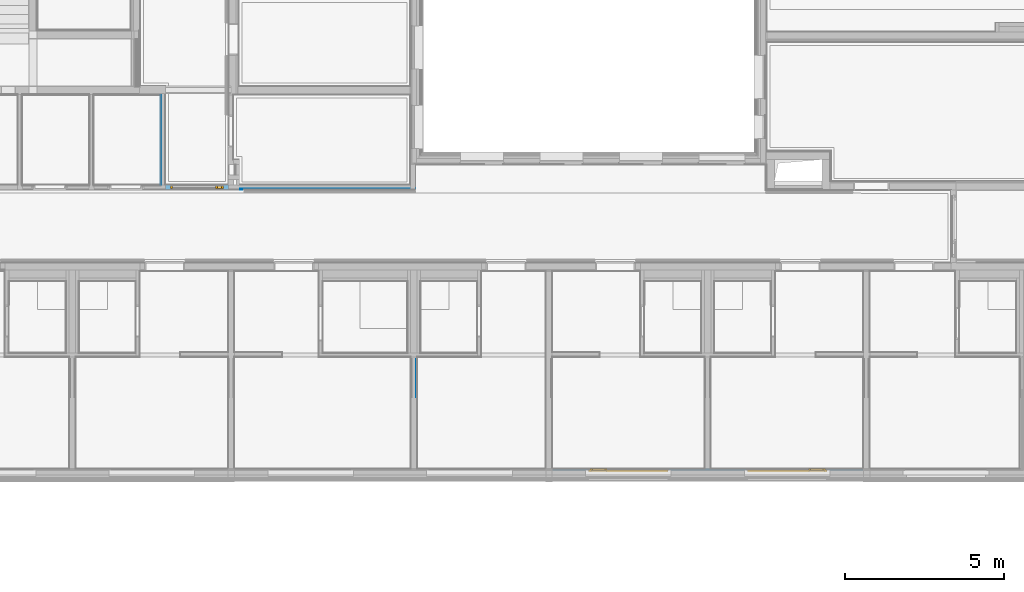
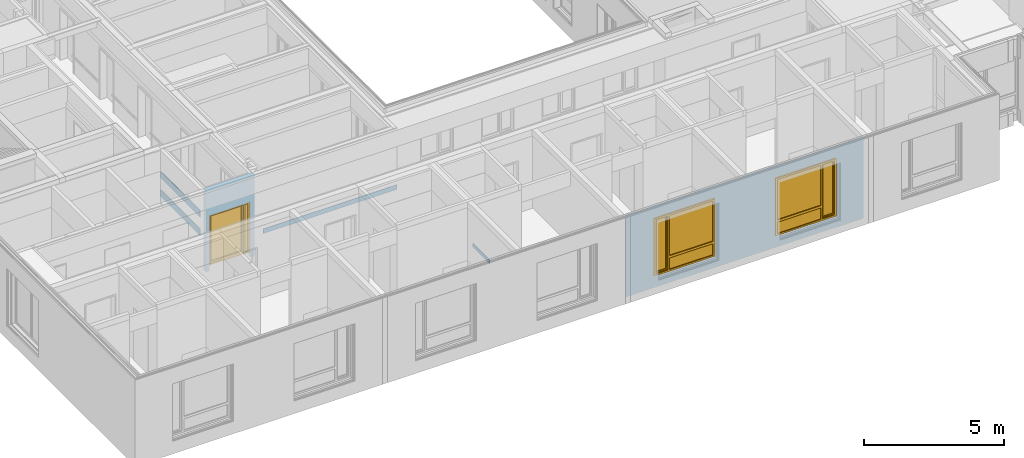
# One storey, part 62 of 222: 4 walls, 2 windows, 1 door, 3 openings, plus 2 elements that do not belong to this part.
"""IFC4 building model written with IfcOpenShell, lengths in metres."""

from ifc_helpers import new_model, entity, si_unit, converted_unit, derived_unit, frame, frame_2d, origin, origin_with_axes, place, context, subcontext, project, spatial, polyline, rectangle, outline, extrude, closed_shell, open_shell, faceted_brep, surface_model, source, transform, mapped, material, element, fill, save


model = new_model("IFC4")

# Units and contexts
model_context = context("Model", 3, precision=1e-05, world=origin())
body_context = subcontext(model_context, "Body", "Model", "MODEL_VIEW")
ifc_project = project(units=[si_unit("LENGTHUNIT", "METRE"), si_unit("AREAUNIT", "SQUARE_METRE"), si_unit("VOLUMEUNIT", "CUBIC_METRE"), si_unit("MASSUNIT", "GRAM", prefix="KILO"), converted_unit("PLANEANGLEUNIT", "DEGREE", entity("IfcPlaneAngleMeasure", 0.0174532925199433), si_unit("PLANEANGLEUNIT", "RADIAN"), dimensions=[0, 0, 0, 0, 0, 0, 0]), derived_unit("THERMALTRANSMITTANCEUNIT", [(si_unit("POWERUNIT", "WATT"), 1), (si_unit("THERMODYNAMICTEMPERATUREUNIT", "KELVIN"), -1), (si_unit("LENGTHUNIT", "METRE"), -2)]), derived_unit("VOLUMETRICFLOWRATEUNIT", [(si_unit("LENGTHUNIT", "METRE"), 3), (converted_unit("TIMEUNIT", "hour", entity("IfcTimeMeasure", 3600.0), si_unit("TIMEUNIT", "SECOND"), dimensions=[0, 0, 1, 0, 0, 0, 0]), -1), (si_unit("LENGTHUNIT", "METRE"), -1)])], contexts=[model_context])

# Site, building, storey
site_placement = place(None, origin())
site = spatial("IfcSite", under=ifc_project, at=site_placement, Name="Psychiatrie Neubau Wunstorf", CompositionType="ELEMENT")
building_placement = place(site_placement, origin())
building = spatial("IfcBuilding", under=site, at=building_placement, Name="Neubau H2 Stationsgebäude", CompositionType="ELEMENT")
storey_placement = place(building_placement, frame((0.0, 0.0, 3.6)))
storey = spatial("IfcBuildingStorey", under=building, at=storey_placement, Name="H2 Ebene +1", CompositionType="ELEMENT", Elevation=3.6)

# Wall, openings, windows
ifc_material_1 = material(Name="WA-LB")
wall_1_placement = place(storey_placement, frame((29.9, -2.16399999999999, 0.0), z_axis=(0.0, 0.0, 1.0), x_axis=(-1.0, 1.39208372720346e-16, 0.0)))
wall_1 = element("IfcWall", 1, at=wall_1_placement, inside=storey, material=ifc_material_1, context=body_context, shape_type="SweptSolid", body=[
    extrude(rectangle(XDim=9.8, YDim=0.036, at=frame_2d((4.9, 0.018), x_axis=(1.0, 0.0))), origin_with_axes(), (0.0, 0.0, 1.0), 3.55),
])
opening_1_placement = place(wall_1_placement, frame((6.15, 0.0, 0.55), z_axis=(0.0, 1.0, 0.0), x_axis=(0.0, 0.0, 1.0)))
opening_1 = element("IfcOpeningElement", 2, at=opening_1_placement, cuts=wall_1, Name="Fensteröffnung", ObjectType="Opening", context=body_context, shape_type="SweptSolid", body=[
    extrude(outline(polyline([(2.5, 2.5), (2.5, 0.0), (0.0, 0.0), (0.0, 2.5), (2.5, 2.5)])), origin_with_axes(), (0.0, 0.0, 1.0), 0.036),
])
opening_2_placement = place(wall_1_placement, frame((1.15, 0.0, 0.55), z_axis=(0.0, 1.0, 0.0), x_axis=(0.0, 0.0, 1.0)))
opening_2 = element("IfcOpeningElement", 3, at=opening_2_placement, cuts=wall_1, Name="Fensteröffnung", ObjectType="Opening", context=body_context, shape_type="SweptSolid", body=[
    extrude(outline(polyline([(2.5, 2.5), (2.5, 0.0), (0.0, 0.0), (0.0, 2.5), (2.5, 2.5)])), origin_with_axes(), (0.0, 0.0, 1.0), 0.036),
])
shared_shape_1 = source(origin_with_axes(), body_context, "Body", "SurfaceModel", [
    surface_model("IfcShellBasedSurfaceModel", [(2.5, 0.0, 2.5), (2.5, 0.0, 0.0), (2.43, 0.0, 0.0), (2.43, 0.0, 2.5), (2.5, 0.0699999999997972, 0.0), (2.5, 0.0699999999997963, 2.5), (2.43, 0.0699999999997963, 2.5), (2.43, 0.0699999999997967, 0.0)], [closed_shell([[[0, 1, 2, 3]], [[4, 5, 6, 7]], [[1, 0, 5, 4]], [[2, 1, 4, 7]], [[3, 2, 7, 6]], [[0, 3, 6, 5]]], orient=[[False], [False], [False], [False], [False], [False]])]),
    surface_model("IfcShellBasedSurfaceModel", [(0.07, 0.0, 2.5), (0.07, 0.0, 0.0), (0.0, 0.0, 0.0), (0.0, 0.0, 2.5), (0.07, 0.0699999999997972, 0.0), (0.07, 0.0699999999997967, 2.5), (0.0, 0.0699999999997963, 2.5), (0.0, 0.0699999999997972, 0.0)], [closed_shell([[[0, 1, 2, 3]], [[4, 5, 6, 7]], [[1, 0, 5, 4]], [[2, 1, 4, 7]], [[3, 2, 7, 6]], [[0, 3, 6, 5]]], orient=[[False], [False], [False], [False], [False], [False]])]),
    surface_model("IfcShellBasedSurfaceModel", [(2.43, 0.0, 0.07), (2.43, 0.0, 0.0), (0.07, 0.0, 0.0), (0.07, 0.0, 0.07), (2.43, 0.0699999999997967, 0.0), (2.43, 0.0699999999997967, 0.07), (0.07, 0.0699999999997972, 0.07), (0.07, 0.0699999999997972, 0.0)], [closed_shell([[[0, 1, 2, 3]], [[4, 5, 6, 7]], [[1, 0, 5, 4]], [[2, 1, 4, 7]], [[3, 2, 7, 6]], [[0, 3, 6, 5]]], orient=[[False], [False], [False], [False], [False], [False]])]),
    surface_model("IfcShellBasedSurfaceModel", [(2.43, 0.0, 2.5), (2.43, 0.0, 2.43), (0.07, 0.0, 2.43), (0.07, 0.0, 2.5), (2.43, 0.0699999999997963, 2.43), (2.43, 0.0699999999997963, 2.5), (0.07, 0.0699999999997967, 2.5), (0.07, 0.0699999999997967, 2.43)], [closed_shell([[[0, 1, 2, 3]], [[4, 5, 6, 7]], [[1, 0, 5, 4]], [[2, 1, 4, 7]], [[3, 2, 7, 6]], [[0, 3, 6, 5]]], orient=[[False], [False], [False], [False], [False], [False]])]),
    surface_model("IfcShellBasedSurfaceModel", [(1.934285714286, 0.0, 2.43), (1.934285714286, 0.0, 0.07), (1.864285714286, 0.0, 0.07), (1.864285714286, 0.0, 2.43), (1.934285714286, 0.0699999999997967, 0.07), (1.934285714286, 0.0699999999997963, 2.43), (1.864285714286, 0.0699999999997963, 2.43), (1.864285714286, 0.0699999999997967, 0.07)], [closed_shell([[[0, 1, 2, 3]], [[4, 5, 6, 7]], [[1, 0, 5, 4]], [[2, 1, 4, 7]], [[3, 2, 7, 6]], [[0, 3, 6, 5]]], orient=[[False], [False], [False], [False], [False], [False]])]),
    surface_model("IfcShellBasedSurfaceModel", [(2.45, -0.0500000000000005, 2.45), (2.45, -0.0500000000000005, 0.05), (2.38, -0.0500000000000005, 0.05), (2.38, -0.0500000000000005, 2.45), (2.45, 0.0199999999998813, 0.05), (2.45, 0.0199999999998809, 2.45), (2.38, 0.0199999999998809, 2.45), (2.38, 0.0199999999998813, 0.05)], [closed_shell([[[0, 1, 2, 3]], [[4, 5, 6, 7]], [[1, 0, 5, 4]], [[2, 1, 4, 7]], [[3, 2, 7, 6]], [[0, 3, 6, 5]]], orient=[[False], [False], [False], [False], [False], [False]])]),
    surface_model("IfcShellBasedSurfaceModel", [(1.984285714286, -0.0500000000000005, 2.45), (1.984285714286, -0.0500000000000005, 0.05), (1.914285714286, -0.0500000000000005, 0.05), (1.914285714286, -0.0500000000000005, 2.45), (1.984285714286, 0.0199999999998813, 0.05), (1.984285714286, 0.0199999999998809, 2.45), (1.914285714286, 0.0199999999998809, 2.45), (1.914285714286, 0.0199999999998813, 0.05)], [closed_shell([[[0, 1, 2, 3]], [[4, 5, 6, 7]], [[1, 0, 5, 4]], [[2, 1, 4, 7]], [[3, 2, 7, 6]], [[0, 3, 6, 5]]], orient=[[False], [False], [False], [False], [False], [False]])]),
    surface_model("IfcShellBasedSurfaceModel", [(2.38, -0.0500000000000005, 0.12), (2.38, -0.0500000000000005, 0.05), (1.984285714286, -0.0500000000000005, 0.05), (1.984285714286, -0.0500000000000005, 0.12), (2.38, 0.0199999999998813, 0.05), (2.38, 0.0199999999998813, 0.12), (1.984285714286, 0.0199999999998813, 0.12), (1.984285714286, 0.0199999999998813, 0.05)], [closed_shell([[[0, 1, 2, 3]], [[4, 5, 6, 7]], [[1, 0, 5, 4]], [[2, 1, 4, 7]], [[3, 2, 7, 6]], [[0, 3, 6, 5]]], orient=[[False], [False], [False], [False], [False], [False]])]),
    surface_model("IfcShellBasedSurfaceModel", [(2.38, -0.0500000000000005, 2.45), (2.38, -0.0500000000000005, 2.38), (1.984285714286, -0.0500000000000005, 2.38), (1.984285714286, -0.0500000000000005, 2.45), (2.38, 0.0199999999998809, 2.38), (2.38, 0.0199999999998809, 2.45), (1.984285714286, 0.0199999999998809, 2.45), (1.984285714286, 0.0199999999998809, 2.38)], [closed_shell([[[0, 1, 2, 3]], [[4, 5, 6, 7]], [[1, 0, 5, 4]], [[2, 1, 4, 7]], [[3, 2, 7, 6]], [[0, 3, 6, 5]]], orient=[[False], [False], [False], [False], [False], [False]])]),
    surface_model("IfcShellBasedSurfaceModel", [(1.864285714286, 0.0, 0.67), (1.864285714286, 0.0, 0.57), (0.07, 0.0, 0.57), (0.07, 0.0, 0.67), (1.864285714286, 0.0699999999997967, 0.57), (1.864285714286, 0.0699999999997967, 0.67), (0.07, 0.0699999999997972, 0.67), (0.07, 0.0699999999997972, 0.57)], [closed_shell([[[0, 1, 2, 3]], [[4, 5, 6, 7]], [[1, 0, 5, 4]], [[2, 1, 4, 7]], [[3, 2, 7, 6]], [[0, 3, 6, 5]]], orient=[[False], [False], [False], [False], [False], [False]])]),
    surface_model("IfcShellBasedSurfaceModel", [(2.38, -0.0150000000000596, 0.12), (1.984285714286, -0.0150000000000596, 0.12), (1.984285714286, -0.0150000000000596, 2.38), (2.38, -0.01500000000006, 2.38)], [open_shell([[[0, 1, 2, 3]]], orient=[[False]])]),
    surface_model("IfcShellBasedSurfaceModel", [(1.864285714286, 0.0349999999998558, 0.07), (0.07, 0.0349999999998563, 0.07), (0.07, 0.0349999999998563, 0.57), (1.864285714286, 0.0349999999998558, 0.57)], [open_shell([[[0, 1, 2, 3]]], orient=[[False]])]),
    surface_model("IfcShellBasedSurfaceModel", [(1.864285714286, 0.0349999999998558, 0.67), (0.07, 0.0349999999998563, 0.67), (0.07, 0.0349999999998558, 2.43), (1.864285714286, 0.0349999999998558, 2.43)], [open_shell([[[0, 1, 2, 3]]], orient=[[False]])]),
])
window_1_placement = place(opening_1_placement, frame((0.0, 0.0, 0.03), z_axis=(1.0, 0.0, 0.0), x_axis=(0.0, 1.0, -4.26905676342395e-17)))
window_1 = element("IfcWindow", 4, at=window_1_placement, inside=storey, Name="Fenster", OverallHeight=2.5, OverallWidth=2.5, PartitioningType="USERDEFINED", PredefinedType="WINDOW", context=body_context, shape_type="MappedRepresentation", body=[
    mapped(shared_shape_1, transform((0.0, 0.0, 0.0), x_axis=(1.0, 0.0, 0.0), y_axis=(0.0, 1.0, 0.0), z_axis=(0.0, 0.0, 1.0), scale=1.0)),
])
fill(opening_1, window_1)
shared_shape_2 = source(origin_with_axes(), body_context, "Body", "SurfaceModel", [
    surface_model("IfcShellBasedSurfaceModel", [(0.0, 0.0, 2.5), (0.07, 0.0, 2.5), (0.07, 0.0, 0.0), (0.0, 0.0, 0.0), (0.0, 0.0699999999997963, 0.0), (0.07, 0.0699999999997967, 0.0), (0.07, 0.0699999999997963, 2.5), (0.0, 0.0699999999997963, 2.5)], [closed_shell([[[0, 1, 2, 3]], [[4, 5, 6, 7]], [[3, 4, 7, 0]], [[2, 5, 4, 3]], [[1, 6, 5, 2]], [[0, 7, 6, 1]]], orient=[[False], [False], [False], [False], [False], [False]])]),
    surface_model("IfcShellBasedSurfaceModel", [(2.43, 0.0, 2.5), (2.5, 0.0, 2.5), (2.5, 0.0, 0.0), (2.43, 0.0, 0.0), (2.43, 0.0699999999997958, 0.0), (2.5, 0.0699999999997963, 0.0), (2.5, 0.0699999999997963, 2.5), (2.43, 0.0699999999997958, 2.5)], [closed_shell([[[0, 1, 2, 3]], [[4, 5, 6, 7]], [[3, 4, 7, 0]], [[2, 5, 4, 3]], [[1, 6, 5, 2]], [[0, 7, 6, 1]]], orient=[[False], [False], [False], [False], [False], [False]])]),
    surface_model("IfcShellBasedSurfaceModel", [(0.07, 0.0, 0.07), (2.43, 0.0, 0.07), (2.43, 0.0, 0.0), (0.07, 0.0, 0.0), (0.07, 0.0699999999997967, 0.0), (2.43, 0.0699999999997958, 0.0), (2.43, 0.0699999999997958, 0.07), (0.07, 0.0699999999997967, 0.07)], [closed_shell([[[0, 1, 2, 3]], [[4, 5, 6, 7]], [[3, 4, 7, 0]], [[2, 5, 4, 3]], [[1, 6, 5, 2]], [[0, 7, 6, 1]]], orient=[[False], [False], [False], [False], [False], [False]])]),
    surface_model("IfcShellBasedSurfaceModel", [(0.07, 0.0, 2.5), (2.43, 0.0, 2.5), (2.43, 0.0, 2.43), (0.07, 0.0, 2.43), (0.07, 0.0699999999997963, 2.43), (2.43, 0.0699999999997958, 2.43), (2.43, 0.0699999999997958, 2.5), (0.07, 0.0699999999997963, 2.5)], [closed_shell([[[0, 1, 2, 3]], [[4, 5, 6, 7]], [[3, 4, 7, 0]], [[2, 5, 4, 3]], [[1, 6, 5, 2]], [[0, 7, 6, 1]]], orient=[[False], [False], [False], [False], [False], [False]])]),
    surface_model("IfcShellBasedSurfaceModel", [(0.565714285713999, 0.0, 2.43), (0.635714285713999, 0.0, 2.43), (0.635714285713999, 0.0, 0.07), (0.565714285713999, 0.0, 0.07), (0.565714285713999, 0.0699999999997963, 0.07), (0.635714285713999, 0.0699999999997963, 0.07), (0.635714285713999, 0.0699999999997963, 2.43), (0.565714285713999, 0.0699999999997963, 2.43)], [closed_shell([[[0, 1, 2, 3]], [[4, 5, 6, 7]], [[3, 4, 7, 0]], [[2, 5, 4, 3]], [[1, 6, 5, 2]], [[0, 7, 6, 1]]], orient=[[False], [False], [False], [False], [False], [False]])]),
    surface_model("IfcShellBasedSurfaceModel", [(0.05, -0.05, 2.45), (0.12, -0.05, 2.45), (0.12, -0.0499999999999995, 0.05), (0.05, -0.0499999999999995, 0.05), (0.05, 0.0199999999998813, 0.05), (0.12, 0.0199999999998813, 0.05), (0.12, 0.0199999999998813, 2.45), (0.05, 0.0199999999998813, 2.45)], [closed_shell([[[0, 1, 2, 3]], [[4, 5, 6, 7]], [[3, 4, 7, 0]], [[2, 5, 4, 3]], [[1, 6, 5, 2]], [[0, 7, 6, 1]]], orient=[[False], [False], [False], [False], [False], [False]])]),
    surface_model("IfcShellBasedSurfaceModel", [(0.515714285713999, -0.05, 2.45), (0.585714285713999, -0.05, 2.45), (0.585714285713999, -0.05, 0.05), (0.515714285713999, -0.05, 0.05), (0.515714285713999, 0.0199999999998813, 0.05), (0.585714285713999, 0.0199999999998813, 0.05), (0.585714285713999, 0.0199999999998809, 2.45), (0.515714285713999, 0.0199999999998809, 2.45)], [closed_shell([[[0, 1, 2, 3]], [[4, 5, 6, 7]], [[3, 4, 7, 0]], [[2, 5, 4, 3]], [[1, 6, 5, 2]], [[0, 7, 6, 1]]], orient=[[False], [False], [False], [False], [False], [False]])]),
    surface_model("IfcShellBasedSurfaceModel", [(0.12, -0.0499999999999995, 0.12), (0.515714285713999, -0.05, 0.12), (0.515714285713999, -0.05, 0.05), (0.12, -0.0499999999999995, 0.05), (0.12, 0.0199999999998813, 0.05), (0.515714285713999, 0.0199999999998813, 0.05), (0.515714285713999, 0.0199999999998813, 0.12), (0.12, 0.0199999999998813, 0.12)], [closed_shell([[[0, 1, 2, 3]], [[4, 5, 6, 7]], [[3, 4, 7, 0]], [[2, 5, 4, 3]], [[1, 6, 5, 2]], [[0, 7, 6, 1]]], orient=[[False], [False], [False], [False], [False], [False]])]),
    surface_model("IfcShellBasedSurfaceModel", [(0.12, -0.05, 2.45), (0.515714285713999, -0.05, 2.45), (0.515714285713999, -0.05, 2.38), (0.12, -0.05, 2.38), (0.12, 0.0199999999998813, 2.38), (0.515714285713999, 0.0199999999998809, 2.38), (0.515714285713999, 0.0199999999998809, 2.45), (0.12, 0.0199999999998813, 2.45)], [closed_shell([[[0, 1, 2, 3]], [[4, 5, 6, 7]], [[3, 4, 7, 0]], [[2, 5, 4, 3]], [[1, 6, 5, 2]], [[0, 7, 6, 1]]], orient=[[False], [False], [False], [False], [False], [False]])]),
    surface_model("IfcShellBasedSurfaceModel", [(0.635714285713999, 0.0, 0.67), (2.43, 0.0, 0.67), (2.43, 0.0, 0.57), (0.635714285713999, 0.0, 0.57), (0.635714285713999, 0.0699999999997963, 0.57), (2.43, 0.0699999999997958, 0.57), (2.43, 0.0699999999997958, 0.67), (0.635714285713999, 0.0699999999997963, 0.67)], [closed_shell([[[0, 1, 2, 3]], [[4, 5, 6, 7]], [[3, 4, 7, 0]], [[2, 5, 4, 3]], [[1, 6, 5, 2]], [[0, 7, 6, 1]]], orient=[[False], [False], [False], [False], [False], [False]])]),
    surface_model("IfcShellBasedSurfaceModel", [(0.12, -0.0150000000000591, 0.12), (0.12, -0.0150000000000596, 2.38), (0.515714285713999, -0.0150000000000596, 2.38), (0.515714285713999, -0.0150000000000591, 0.12)], [open_shell([[[0, 1, 2, 3]]], orient=[[False]])]),
    surface_model("IfcShellBasedSurfaceModel", [(0.635714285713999, 0.0349999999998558, 0.07), (0.635714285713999, 0.0349999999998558, 0.57), (2.43, 0.0349999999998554, 0.57), (2.43, 0.0349999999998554, 0.07)], [open_shell([[[0, 1, 2, 3]]], orient=[[False]])]),
    surface_model("IfcShellBasedSurfaceModel", [(0.635714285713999, 0.0349999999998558, 0.67), (0.635714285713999, 0.0349999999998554, 2.43), (2.43, 0.0349999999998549, 2.43), (2.43, 0.0349999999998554, 0.67)], [open_shell([[[0, 1, 2, 3]]], orient=[[False]])]),
])
window_2_placement = place(opening_2_placement, frame((0.0, 0.0, 0.03), z_axis=(1.0, 0.0, 0.0), x_axis=(0.0, 1.0, -4.26905676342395e-17)))
window_2 = element("IfcWindow", 5, at=window_2_placement, inside=storey, Name="Fenster", OverallHeight=2.5, OverallWidth=2.5, PartitioningType="USERDEFINED", PredefinedType="WINDOW", context=body_context, shape_type="MappedRepresentation", body=[
    mapped(shared_shape_2, transform((0.0, 0.0, 0.0), x_axis=(1.0, 0.0, 0.0), y_axis=(0.0, 1.0, 0.0), z_axis=(0.0, 0.0, 1.0), scale=1.0)),
])
fill(opening_2, window_2)

# Walls
wall_2_placement = place(storey_placement, frame((15.825, 0.0854496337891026, 1.575)))
element("IfcWall", 6, at=wall_2_placement, inside=storey, Name="WV 1.1", context=body_context, shape_type="Brep", body=[
    faceted_brep([(0.025, 1.2, 0.0), (0.0, 1.2, 0.0), (0.0, 0.0, 0.0), (0.025, 0.0, 0.0), (0.0, 1.2, 0.15), (0.025, 1.2, 0.15), (0.025, 0.0, 0.15), (0.0, 0.0, 0.15)], [[[0, 1, 2, 3]], [[4, 5, 6, 7]], [[1, 0, 5, 4]], [[2, 1, 4, 7]], [[3, 2, 7, 6]], [[0, 3, 6, 5]]], orient=[[False], [False], [False], [False], [False], [False]]),
])
wall_3_placement = place(storey_placement, frame((10.289, 6.62499989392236, 0.85)))
element("IfcWall", 7, at=wall_3_placement, inside=storey, Name="WV 1.1", context=body_context, shape_type="Brep", body=[
    faceted_brep([(0.0, 0.025, 0.0), (0.0, 0.0, 0.0), (5.5, 0.0, 0.0), (5.5, 0.025, 0.0), (0.0, 0.0, 0.2), (0.0, 0.025, 0.2), (5.5, 0.025, 0.2), (5.5, 0.0, 0.2)], [[[0, 1, 2, 3]], [[4, 5, 6, 7]], [[1, 0, 5, 4]], [[2, 1, 4, 7]], [[3, 2, 7, 6]], [[0, 3, 6, 5]]], orient=[[False], [False], [False], [False], [False], [False]]),
])
for number, where, name in (
    (8, (7.775, 6.77500025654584, 2.35), "WV 1.1"),
    (9, (7.775, 6.77500025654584, 1.55), "WV 1.1"),
):
    element("IfcWall", number, at=place(storey_placement, frame(where)), inside=storey, Name=name, context=body_context, shape_type="Brep", body=[
        faceted_brep([(0.018, 2.82, 0.0), (0.0, 2.82, 0.0), (0.0, 0.0, 0.0), (0.018, 0.0, 0.0), (0.0, 2.82, 0.3), (0.018, 2.82, 0.3), (0.018, 0.0, 0.3), (0.0, 0.0, 0.3)], [[[0, 1, 2, 3]], [[4, 5, 6, 7]], [[1, 0, 5, 4]], [[2, 1, 4, 7]], [[3, 2, 7, 6]], [[0, 3, 6, 5]]], orient=[[False], [False], [False], [False], [False], [False]]),
    ])

# Wall, opening, door
ifc_material_2 = material(Name="WI-LB")
wall_4_placement = place(storey_placement, frame((9.91750002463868, 6.77999989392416, 0.0), z_axis=(0.0, 0.0, 1.0), x_axis=(-1.0, 0.0, 0.0)))
wall_4 = element("IfcWall", 10, at=wall_4_placement, inside=storey, material=ifc_material_2, context=body_context, shape_type="SweptSolid", body=[
    extrude(rectangle(XDim=1.9925, YDim=0.155, at=frame_2d((0.99625, 0.0775), x_axis=(1.0, 0.0))), origin_with_axes(), (0.0, 0.0, 1.0), 3.55),
])
opening_3_placement = place(wall_4_placement, frame((0.155000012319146, 0.0, 0.0), z_axis=(0.0, 1.0, 0.0), x_axis=(0.0, 0.0, 1.0)))
opening_3 = element("IfcOpeningElement", 11, at=opening_3_placement, cuts=wall_4, Name="Türöffnung", ObjectType="Opening", context=body_context, shape_type="SweptSolid", body=[
    extrude(outline(polyline([(2.41, 1.6825), (2.41, 0.0), (0.0, 0.0), (0.0, 1.6825), (2.41, 1.6825)])), origin_with_axes(), (0.0, 0.0, 1.0), 0.155),
])
ifc_material_3 = material(Name="TI-2F-AG-D-O")
shared_shape_3 = source(origin_with_axes(), body_context, "Body", "Brep", [
    faceted_brep([(1.81, 0.0849999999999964, 0.0), (1.71, 0.0849999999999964, 0.0), (1.71, -0.0150000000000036, 0.0), (1.81, -0.0150000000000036, 0.0), (1.81, -0.0150000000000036, 3.55), (1.71, -0.0150000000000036, 3.55), (1.71, 0.0849999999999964, 3.55), (1.81, 0.0849999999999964, 3.55)], [[[0, 1, 2, 3]], [[4, 5, 6, 7]], [[3, 4, 7, 0]], [[2, 5, 4, 3]], [[1, 6, 5, 2]], [[0, 7, 6, 1]]], orient=[[False], [False], [False], [False], [False], [False]]),
    faceted_brep([(-0.0275000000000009, 0.0849999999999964, 0.0), (-0.127500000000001, 0.0849999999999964, 0.0), (-0.127500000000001, -0.0150000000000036, 0.0), (-0.0275000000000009, -0.0150000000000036, 0.0), (-0.0275000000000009, -0.0150000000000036, 3.55), (-0.127500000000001, -0.0150000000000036, 3.55), (-0.127500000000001, 0.0849999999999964, 3.55), (-0.0275000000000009, 0.0849999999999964, 3.55)], [[[0, 1, 2, 3]], [[4, 5, 6, 7]], [[3, 4, 7, 0]], [[2, 5, 4, 3]], [[1, 6, 5, 2]], [[0, 7, 6, 1]]], orient=[[False], [False], [False], [False], [False], [False]]),
    faceted_brep([(1.71, 0.0849999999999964, 2.4375), (-0.0275, 0.0849999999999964, 2.4375), (-0.0275, -0.0150000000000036, 2.4375), (1.71, -0.0150000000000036, 2.4375), (1.71, -0.0150000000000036, 2.5375), (-0.0275, -0.0150000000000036, 2.5375), (-0.0275, 0.0849999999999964, 2.5375), (1.71, 0.0849999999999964, 2.5375)], [[[0, 1, 2, 3]], [[4, 5, 6, 7]], [[3, 4, 7, 0]], [[2, 5, 4, 3]], [[1, 6, 5, 2]], [[0, 7, 6, 1]]], orient=[[False], [False], [False], [False], [False], [False]]),
])
shared_shape_4 = source(origin_with_axes(), body_context, "Body", "SurfaceModel", [
    surface_model("IfcShellBasedSurfaceModel", [(0.0, 0.0, 2.41), (0.07, 0.0, 2.41), (0.07, 0.0, 0.2), (0.0, 0.0, 0.2), (0.0, 0.0699999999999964, 0.2), (0.07, 0.0699999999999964, 0.2), (0.07, 0.0699999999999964, 2.41), (0.0, 0.0699999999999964, 2.41)], [closed_shell([[[0, 1, 2, 3]], [[4, 5, 6, 7]], [[3, 4, 7, 0]], [[2, 5, 4, 3]], [[1, 6, 5, 2]], [[0, 7, 6, 1]]], orient=[[False], [False], [False], [False], [False], [False]])]),
    surface_model("IfcShellBasedSurfaceModel", [(1.6125, 0.0, 2.41), (1.6825, 0.0, 2.41), (1.6825, 0.0, 0.2), (1.6125, 0.0, 0.2), (1.6125, 0.0699999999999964, 0.2), (1.6825, 0.0699999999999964, 0.2), (1.6825, 0.0699999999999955, 2.41), (1.6125, 0.0699999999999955, 2.41)], [closed_shell([[[0, 1, 2, 3]], [[4, 5, 6, 7]], [[3, 4, 7, 0]], [[2, 5, 4, 3]], [[1, 6, 5, 2]], [[0, 7, 6, 1]]], orient=[[False], [False], [False], [False], [False], [False]])]),
    surface_model("IfcShellBasedSurfaceModel", [(0.07, 0.0, 2.41), (1.6125, 0.0, 2.41), (1.6125, 0.0, 2.34), (0.07, 0.0, 2.34), (0.07, 0.0699999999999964, 2.34), (1.6125, 0.0699999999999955, 2.34), (1.6125, 0.0699999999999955, 2.41), (0.07, 0.0699999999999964, 2.41)], [closed_shell([[[0, 1, 2, 3]], [[4, 5, 6, 7]], [[3, 4, 7, 0]], [[2, 5, 4, 3]], [[1, 6, 5, 2]], [[0, 7, 6, 1]]], orient=[[False], [False], [False], [False], [False], [False]])]),
    surface_model("IfcShellBasedSurfaceModel", [(1.42, 0.0, 2.34), (1.49, 0.0, 2.34), (1.49, 0.0, 0.2), (1.42, 0.0, 0.2), (1.42, 0.0699999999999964, 0.2), (1.49, 0.0699999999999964, 0.2), (1.49, 0.0699999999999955, 2.34), (1.42, 0.0699999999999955, 2.34)], [closed_shell([[[0, 1, 2, 3]], [[4, 5, 6, 7]], [[3, 4, 7, 0]], [[2, 5, 4, 3]], [[1, 6, 5, 2]], [[0, 7, 6, 1]]], orient=[[False], [False], [False], [False], [False], [False]])]),
    surface_model("IfcShellBasedSurfaceModel", [(0.05, 0.0499999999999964, 2.36), (0.119999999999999, 0.0499999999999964, 2.36), (0.119999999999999, 0.0499999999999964, 0.18), (0.05, 0.0499999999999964, 0.18), (0.05, 0.119999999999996, 0.18), (0.119999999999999, 0.119999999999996, 0.18), (0.119999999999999, 0.119999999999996, 2.36), (0.05, 0.119999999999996, 2.36)], [closed_shell([[[0, 1, 2, 3]], [[4, 5, 6, 7]], [[3, 4, 7, 0]], [[2, 5, 4, 3]], [[1, 6, 5, 2]], [[0, 7, 6, 1]]], orient=[[False], [False], [False], [False], [False], [False]])]),
    surface_model("IfcShellBasedSurfaceModel", [(1.37, 0.0499999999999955, 2.36), (1.44, 0.0499999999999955, 2.36), (1.44, 0.0499999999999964, 0.18), (1.37, 0.0499999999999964, 0.18), (1.37, 0.119999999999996, 0.18), (1.44, 0.119999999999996, 0.18), (1.44, 0.119999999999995, 2.36), (1.37, 0.119999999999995, 2.36)], [closed_shell([[[0, 1, 2, 3]], [[4, 5, 6, 7]], [[3, 4, 7, 0]], [[2, 5, 4, 3]], [[1, 6, 5, 2]], [[0, 7, 6, 1]]], orient=[[False], [False], [False], [False], [False], [False]])]),
    surface_model("IfcShellBasedSurfaceModel", [(0.119999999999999, 0.0499999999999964, 0.33), (1.37, 0.0499999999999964, 0.33), (1.37, 0.0499999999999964, 0.18), (0.119999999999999, 0.0499999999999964, 0.18), (0.119999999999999, 0.119999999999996, 0.18), (1.37, 0.119999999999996, 0.18), (1.37, 0.119999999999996, 0.33), (0.119999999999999, 0.119999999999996, 0.33)], [closed_shell([[[0, 1, 2, 3]], [[4, 5, 6, 7]], [[3, 4, 7, 0]], [[2, 5, 4, 3]], [[1, 6, 5, 2]], [[0, 7, 6, 1]]], orient=[[False], [False], [False], [False], [False], [False]])]),
    surface_model("IfcShellBasedSurfaceModel", [(0.119999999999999, 0.0499999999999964, 2.36), (1.37, 0.0499999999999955, 2.36), (1.37, 0.0499999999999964, 2.29), (0.119999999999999, 0.0499999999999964, 2.29), (0.119999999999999, 0.119999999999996, 2.29), (1.37, 0.119999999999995, 2.29), (1.37, 0.119999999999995, 2.36), (0.119999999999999, 0.119999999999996, 2.36)], [closed_shell([[[0, 1, 2, 3]], [[4, 5, 6, 7]], [[3, 4, 7, 0]], [[2, 5, 4, 3]], [[1, 6, 5, 2]], [[0, 7, 6, 1]]], orient=[[False], [False], [False], [False], [False], [False]])]),
    surface_model("IfcShellBasedSurfaceModel", [(1.49, 0.0, 0.27), (1.6125, 0.0, 0.27), (1.6125, 0.0, 0.2), (1.49, 0.0, 0.2), (1.49, 0.0699999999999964, 0.2), (1.6125, 0.0699999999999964, 0.2), (1.6125, 0.0699999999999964, 0.27), (1.49, 0.0699999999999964, 0.27)], [closed_shell([[[0, 1, 2, 3]], [[4, 5, 6, 7]], [[3, 4, 7, 0]], [[2, 5, 4, 3]], [[1, 6, 5, 2]], [[0, 7, 6, 1]]], orient=[[False], [False], [False], [False], [False], [False]])]),
    surface_model("IfcShellBasedSurfaceModel", [(0.119999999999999, 0.0849999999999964, 0.33), (0.119999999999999, 0.0849999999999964, 2.29), (1.37, 0.0849999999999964, 2.29), (1.37, 0.0849999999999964, 0.33)], [open_shell([[[0, 1, 2, 3]]], orient=[[False]])]),
    surface_model("IfcShellBasedSurfaceModel", [(1.49, 0.0349999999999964, 0.27), (1.49, 0.0349999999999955, 2.34), (1.6125, 0.0349999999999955, 2.34), (1.6125, 0.0349999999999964, 0.27)], [open_shell([[[0, 1, 2, 3]]], orient=[[False]])]),
])
door_placement = place(opening_3_placement, frame((0.0, 1.6825, 0.11), z_axis=(1.0, 0.0, 0.0), x_axis=(0.0, -1.0, 0.0)))
door = element("IfcDoor", 12, at=door_placement, inside=storey, material=ifc_material_3, Name="SMT", OperationType="USERDEFINED", OverallHeight=2.41, OverallWidth=1.6825, PredefinedType="DOOR", context=body_context, shape_type="MappedRepresentation", body=[
    mapped(shared_shape_3, transform((0.0, 0.0, 0.0), x_axis=(1.0, 0.0, 0.0), y_axis=(0.0, 1.0, 0.0), z_axis=(0.0, 0.0, 1.0), scale=1.0)),
    mapped(shared_shape_4, transform((0.0, 0.0, 0.0), x_axis=(1.0, 0.0, 0.0), y_axis=(0.0, 1.0, 0.0), z_axis=(0.0, 0.0, 1.0), scale=1.0)),
])
fill(opening_3, door)

save(model, "model.ifc")
